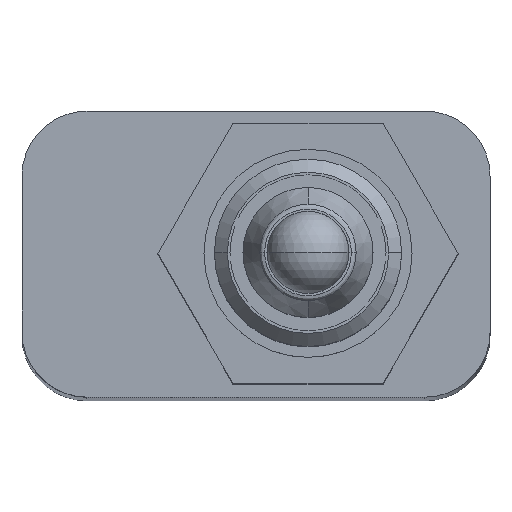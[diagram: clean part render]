
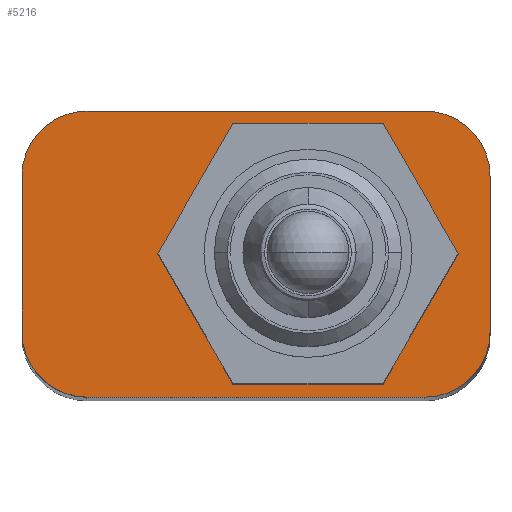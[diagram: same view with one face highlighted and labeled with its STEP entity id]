
A CAD part, top view. The second image highlights one B-rep face of the part: STEP entity #5216.
In plain terms, the highlighted planar face has unit normal (0, 0, 1).
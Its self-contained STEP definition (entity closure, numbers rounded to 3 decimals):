
#13 = LINE ( 'NONE', #4676, #2837 ) ;
#16 = CARTESIAN_POINT ( 'NONE',  ( 2.887, 5., -31. ) ) ;
#27 = CARTESIAN_POINT ( 'NONE',  ( 4.5, 3., -31. ) ) ;
#49 = CARTESIAN_POINT ( 'NONE',  ( -11., 3., -31. ) ) ;
#157 = CARTESIAN_POINT ( 'NONE',  ( -8.5, -5.5, -31. ) ) ;
#165 = DIRECTION ( 'NONE',  ( 0., 0., 1. ) ) ;
#172 = ORIENTED_EDGE ( 'NONE', *, *, #3588, .F. ) ;
#250 = DIRECTION ( 'NONE',  ( -1., 0., 0. ) ) ;
#277 = CARTESIAN_POINT ( 'NONE',  ( -2.887, -5., -31. ) ) ;
#310 = CARTESIAN_POINT ( 'NONE',  ( -11., 5.5, -31. ) ) ;
#416 = VECTOR ( 'NONE', #2882, 1000. ) ;
#484 = CARTESIAN_POINT ( 'NONE',  ( -2.887, 5., -31. ) ) ;
#494 = CARTESIAN_POINT ( 'NONE',  ( -8.5, 5.5, -31. ) ) ;
#522 = CARTESIAN_POINT ( 'NONE',  ( -2.887, -5., -31. ) ) ;
#556 = VECTOR ( 'NONE', #4222, 1000. ) ;
#558 = AXIS2_PLACEMENT_3D ( 'NONE', #2622, #1735, #4335 ) ;
#658 = CARTESIAN_POINT ( 'NONE',  ( 5.774, 0., -31. ) ) ;
#700 = CARTESIAN_POINT ( 'NONE',  ( 7., -5.5, -31. ) ) ;
#754 = VECTOR ( 'NONE', #3762, 1000. ) ;
#870 = VERTEX_POINT ( 'NONE', #3178 ) ;
#876 = ORIENTED_EDGE ( 'NONE', *, *, #4644, .T. ) ;
#890 = CARTESIAN_POINT ( 'NONE',  ( -11., -5.5, -31. ) ) ;
#902 = EDGE_CURVE ( 'NONE', #998, #4518, #3366, .T. ) ;
#925 = DIRECTION ( 'NONE',  ( 1., 0., 0. ) ) ;
#998 = VERTEX_POINT ( 'NONE', #5543 ) ;
#1030 = LINE ( 'NONE', #2422, #1093 ) ;
#1079 = EDGE_CURVE ( 'NONE', #4645, #1200, #1030, .T. ) ;
#1093 = VECTOR ( 'NONE', #5512, 1000. ) ;
#1118 = CARTESIAN_POINT ( 'NONE',  ( 2.887, 5., -31. ) ) ;
#1200 = VERTEX_POINT ( 'NONE', #4379 ) ;
#1233 = CARTESIAN_POINT ( 'NONE',  ( -8.5, -3., -31. ) ) ;
#1265 = ORIENTED_EDGE ( 'NONE', *, *, #2602, .F. ) ;
#1356 = ORIENTED_EDGE ( 'NONE', *, *, #902, .F. ) ;
#1366 = ORIENTED_EDGE ( 'NONE', *, *, #2871, .F. ) ;
#1377 = EDGE_CURVE ( 'NONE', #998, #870, #4785, .T. ) ;
#1464 = EDGE_CURVE ( 'NONE', #4867, #4826, #5689, .T. ) ;
#1670 = CARTESIAN_POINT ( 'NONE',  ( -5.774, 0., -31. ) ) ;
#1735 = DIRECTION ( 'NONE',  ( 0., 0., -1. ) ) ;
#1752 = CARTESIAN_POINT ( 'NONE',  ( 4.5, 5.5, -31. ) ) ;
#1827 = EDGE_LOOP ( 'NONE', ( #4769, #4690, #3883, #3239, #4722, #876 ) ) ;
#1872 = LINE ( 'NONE', #310, #5030 ) ;
#1975 = CARTESIAN_POINT ( 'NONE',  ( 7., 3., -31. ) ) ;
#2017 = FACE_BOUND ( 'NONE', #1827, .T. ) ;
#2025 = ORIENTED_EDGE ( 'NONE', *, *, #1464, .T. ) ;
#2115 = DIRECTION ( 'NONE',  ( 1., 0., 0. ) ) ;
#2167 = EDGE_CURVE ( 'NONE', #1200, #2308, #4118, .T. ) ;
#2226 = AXIS2_PLACEMENT_3D ( 'NONE', #1233, #3428, #5632 ) ;
#2308 = VERTEX_POINT ( 'NONE', #522 ) ;
#2422 = CARTESIAN_POINT ( 'NONE',  ( 5.774, 0., -31. ) ) ;
#2489 = DIRECTION ( 'NONE',  ( 0.5, 0.866, 0. ) ) ;
#2496 = EDGE_LOOP ( 'NONE', ( #172, #5133, #1356, #4992, #1265, #4028, #1366, #2025 ) ) ;
#2522 = VECTOR ( 'NONE', #925, 1000. ) ;
#2602 = EDGE_CURVE ( 'NONE', #4096, #870, #3914, .T. ) ;
#2622 = CARTESIAN_POINT ( 'NONE',  ( 0., 0., -31. ) ) ;
#2671 = CARTESIAN_POINT ( 'NONE',  ( -2.887, 5., -31. ) ) ;
#2675 = LINE ( 'NONE', #1118, #754 ) ;
#2786 = CARTESIAN_POINT ( 'NONE',  ( 4.5, -3., -31. ) ) ;
#2807 = EDGE_CURVE ( 'NONE', #5281, #4518, #5444, .T. ) ;
#2837 = VECTOR ( 'NONE', #2489, 1000. ) ;
#2871 = EDGE_CURVE ( 'NONE', #4867, #4208, #1872, .T. ) ;
#2882 = DIRECTION ( 'NONE',  ( 0., -1., 0. ) ) ;
#2984 = VERTEX_POINT ( 'NONE', #484 ) ;
#3004 = LINE ( 'NONE', #2671, #2522 ) ;
#3011 = VECTOR ( 'NONE', #3142, 1000. ) ;
#3096 = DIRECTION ( 'NONE',  ( 0., 0., 1. ) ) ;
#3142 = DIRECTION ( 'NONE',  ( 0., 1., 0. ) ) ;
#3178 = CARTESIAN_POINT ( 'NONE',  ( 7., -3., -31. ) ) ;
#3239 = ORIENTED_EDGE ( 'NONE', *, *, #1079, .T. ) ;
#3250 = DIRECTION ( 'NONE',  ( -1., 0., 0. ) ) ;
#3366 = LINE ( 'NONE', #3452, #5200 ) ;
#3421 = VECTOR ( 'NONE', #250, 1000. ) ;
#3428 = DIRECTION ( 'NONE',  ( 0., 0., 1. ) ) ;
#3436 = CIRCLE ( 'NONE', #4893, 2.5 ) ;
#3438 = EDGE_CURVE ( 'NONE', #5393, #4645, #2675, .T. ) ;
#3452 = CARTESIAN_POINT ( 'NONE',  ( -11., -5.5, -31. ) ) ;
#3473 = DIRECTION ( 'NONE',  ( -1., 0., 0. ) ) ;
#3482 = VERTEX_POINT ( 'NONE', #1670 ) ;
#3588 = EDGE_CURVE ( 'NONE', #5281, #4826, #4252, .T. ) ;
#3762 = DIRECTION ( 'NONE',  ( 0.5, -0.866, 0. ) ) ;
#3883 = ORIENTED_EDGE ( 'NONE', *, *, #3438, .T. ) ;
#3914 = LINE ( 'NONE', #700, #416 ) ;
#3940 = DIRECTION ( 'NONE',  ( 0., 0., 1. ) ) ;
#4028 = ORIENTED_EDGE ( 'NONE', *, *, #4894, .T. ) ;
#4096 = VERTEX_POINT ( 'NONE', #1975 ) ;
#4112 = AXIS2_PLACEMENT_3D ( 'NONE', #5223, #3096, #4394 ) ;
#4118 = LINE ( 'NONE', #4205, #3421 ) ;
#4205 = CARTESIAN_POINT ( 'NONE',  ( 2.887, -5., -31. ) ) ;
#4208 = VERTEX_POINT ( 'NONE', #1752 ) ;
#4222 = DIRECTION ( 'NONE',  ( -0.5, 0.866, 0. ) ) ;
#4252 = LINE ( 'NONE', #890, #3011 ) ;
#4301 = PLANE ( 'NONE',  #558 ) ;
#4315 = LINE ( 'NONE', #277, #556 ) ;
#4335 = DIRECTION ( 'NONE',  ( -1., 0., 0. ) ) ;
#4363 = DIRECTION ( 'NONE',  ( -1., 0., 0. ) ) ;
#4379 = CARTESIAN_POINT ( 'NONE',  ( 2.887, -5., -31. ) ) ;
#4394 = DIRECTION ( 'NONE',  ( -1., 0., 0. ) ) ;
#4518 = VERTEX_POINT ( 'NONE', #157 ) ;
#4644 = EDGE_CURVE ( 'NONE', #2308, #3482, #4315, .T. ) ;
#4645 = VERTEX_POINT ( 'NONE', #658 ) ;
#4676 = CARTESIAN_POINT ( 'NONE',  ( -5.774, 0., -31. ) ) ;
#4690 = ORIENTED_EDGE ( 'NONE', *, *, #4850, .T. ) ;
#4722 = ORIENTED_EDGE ( 'NONE', *, *, #2167, .T. ) ;
#4757 = FACE_OUTER_BOUND ( 'NONE', #2496, .T. ) ;
#4769 = ORIENTED_EDGE ( 'NONE', *, *, #5178, .T. ) ;
#4785 = CIRCLE ( 'NONE', #5570, 2.5 ) ;
#4826 = VERTEX_POINT ( 'NONE', #49 ) ;
#4850 = EDGE_CURVE ( 'NONE', #2984, #5393, #3004, .T. ) ;
#4867 = VERTEX_POINT ( 'NONE', #494 ) ;
#4893 = AXIS2_PLACEMENT_3D ( 'NONE', #27, #3940, #4363 ) ;
#4894 = EDGE_CURVE ( 'NONE', #4096, #4208, #3436, .T. ) ;
#4897 = CARTESIAN_POINT ( 'NONE',  ( -11., -3., -31. ) ) ;
#4992 = ORIENTED_EDGE ( 'NONE', *, *, #1377, .T. ) ;
#5030 = VECTOR ( 'NONE', #2115, 1000. ) ;
#5133 = ORIENTED_EDGE ( 'NONE', *, *, #2807, .T. ) ;
#5178 = EDGE_CURVE ( 'NONE', #3482, #2984, #13, .T. ) ;
#5200 = VECTOR ( 'NONE', #3473, 1000. ) ;
#5216 = ADVANCED_FACE ( 'NONE', ( #4757, #2017 ), #4301, .F. ) ;
#5223 = CARTESIAN_POINT ( 'NONE',  ( -8.5, 3., -31. ) ) ;
#5281 = VERTEX_POINT ( 'NONE', #4897 ) ;
#5393 = VERTEX_POINT ( 'NONE', #16 ) ;
#5444 = CIRCLE ( 'NONE', #2226, 2.5 ) ;
#5512 = DIRECTION ( 'NONE',  ( -0.5, -0.866, 0. ) ) ;
#5543 = CARTESIAN_POINT ( 'NONE',  ( 4.5, -5.5, -31. ) ) ;
#5570 = AXIS2_PLACEMENT_3D ( 'NONE', #2786, #165, #3250 ) ;
#5632 = DIRECTION ( 'NONE',  ( -1., 0., 0. ) ) ;
#5689 = CIRCLE ( 'NONE', #4112, 2.5 ) ;
